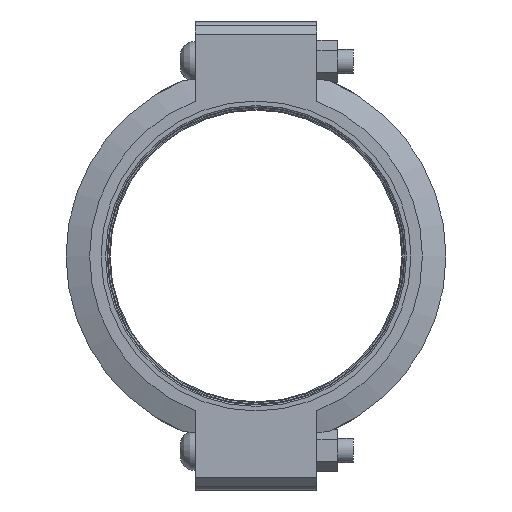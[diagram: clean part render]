
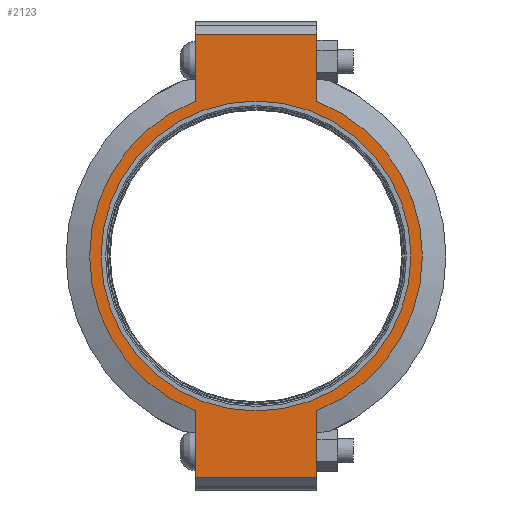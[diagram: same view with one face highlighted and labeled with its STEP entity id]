
A CAD part, left-side view. The second image highlights one B-rep face of the part: STEP entity #2123.
In plain terms, the highlighted planar face has unit normal (-1, 0, 0) as drawn and (0, 0, 1) by its records, which use the part's own axes.
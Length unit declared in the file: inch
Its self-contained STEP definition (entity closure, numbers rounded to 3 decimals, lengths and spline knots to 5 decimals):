
#176=LINE('',#3759,#271);
#187=LINE('',#3810,#282);
#193=LINE('',#3836,#288);
#195=LINE('',#3839,#290);
#196=LINE('',#3844,#291);
#197=LINE('',#3845,#292);
#271=VECTOR('',#3080,0.3937);
#282=VECTOR('',#3111,0.3937);
#288=VECTOR('',#3129,0.3937);
#290=VECTOR('',#3133,0.3937);
#291=VECTOR('',#3138,0.3937);
#292=VECTOR('',#3139,0.3937);
#359=FACE_BOUND('',#632,.T.);
#404=PLANE('',#2495);
#499=FACE_OUTER_BOUND('',#631,.T.);
#631=EDGE_LOOP('',(#1804,#1805,#1806,#1807,#1808,#1809,#1810,#1811));
#632=EDGE_LOOP('',(#1812));
#793=CIRCLE('',#2444,6.375);
#817=CIRCLE('',#2496,6.84375);
#818=CIRCLE('',#2497,6.84375);
#952=VERTEX_POINT('',#3585);
#993=VERTEX_POINT('',#3756);
#994=VERTEX_POINT('',#3758);
#1011=VERTEX_POINT('',#3805);
#1012=VERTEX_POINT('',#3809);
#1019=VERTEX_POINT('',#3831);
#1020=VERTEX_POINT('',#3835);
#1021=VERTEX_POINT('',#3841);
#1022=VERTEX_POINT('',#3843);
#1201=EDGE_CURVE('',#952,#952,#793,.T.);
#1258=EDGE_CURVE('',#994,#993,#176,.T.);
#1279=EDGE_CURVE('',#1012,#1011,#187,.T.);
#1290=EDGE_CURVE('',#1020,#1019,#193,.T.);
#1292=EDGE_CURVE('',#1020,#993,#195,.T.);
#1293=EDGE_CURVE('',#1019,#1021,#817,.T.);
#1294=EDGE_CURVE('',#1021,#1022,#196,.T.);
#1295=EDGE_CURVE('',#1012,#1022,#197,.T.);
#1296=EDGE_CURVE('',#1011,#994,#818,.T.);
#1804=ORIENTED_EDGE('',*,*,#1292,.F.);
#1805=ORIENTED_EDGE('',*,*,#1290,.T.);
#1806=ORIENTED_EDGE('',*,*,#1293,.T.);
#1807=ORIENTED_EDGE('',*,*,#1294,.T.);
#1808=ORIENTED_EDGE('',*,*,#1295,.F.);
#1809=ORIENTED_EDGE('',*,*,#1279,.T.);
#1810=ORIENTED_EDGE('',*,*,#1296,.T.);
#1811=ORIENTED_EDGE('',*,*,#1258,.T.);
#1812=ORIENTED_EDGE('',*,*,#1201,.T.);
#2123=ADVANCED_FACE('',(#499,#359),#404,.T.);
#2444=AXIS2_PLACEMENT_3D('',#3587,#2970,#2971);
#2495=AXIS2_PLACEMENT_3D('',#3840,#3134,#3135);
#2496=AXIS2_PLACEMENT_3D('',#3842,#3136,#3137);
#2497=AXIS2_PLACEMENT_3D('',#3846,#3140,#3141);
#2970=DIRECTION('center_axis',(0.,0.,-1.));
#2971=DIRECTION('ref_axis',(1.,0.,0.));
#3080=DIRECTION('',(1.,0.,0.));
#3111=DIRECTION('',(1.,0.,0.));
#3129=DIRECTION('',(-1.,0.,0.));
#3133=DIRECTION('',(0.,-1.,0.));
#3134=DIRECTION('center_axis',(0.,0.,1.));
#3135=DIRECTION('ref_axis',(-1.,0.,0.));
#3136=DIRECTION('center_axis',(0.,0.,1.));
#3137=DIRECTION('ref_axis',(1.,0.,0.));
#3138=DIRECTION('',(-1.,0.,0.));
#3139=DIRECTION('',(0.,1.,0.));
#3140=DIRECTION('center_axis',(0.,0.,1.));
#3141=DIRECTION('ref_axis',(1.,0.,0.));
#3585=CARTESIAN_POINT('',(-6.375,0.,1.315));
#3587=CARTESIAN_POINT('Origin',(0.,0.,1.315));
#3756=CARTESIAN_POINT('',(9.125,-2.5,1.315));
#3758=CARTESIAN_POINT('',(6.37079,-2.5,1.315));
#3759=CARTESIAN_POINT('',(-9.625,-2.5,1.315));
#3805=CARTESIAN_POINT('',(-6.37079,-2.5,1.315));
#3809=CARTESIAN_POINT('',(-9.125,-2.5,1.315));
#3810=CARTESIAN_POINT('',(-9.625,-2.5,1.315));
#3831=CARTESIAN_POINT('',(6.37079,2.5,1.315));
#3835=CARTESIAN_POINT('',(9.125,2.5,1.315));
#3836=CARTESIAN_POINT('',(9.625,2.5,1.315));
#3839=CARTESIAN_POINT('',(9.125,-1.25,1.315));
#3840=CARTESIAN_POINT('Origin',(0.,0.,
1.315));
#3841=CARTESIAN_POINT('',(-6.37079,2.5,1.315));
#3842=CARTESIAN_POINT('Origin',(0.,0.,1.315));
#3843=CARTESIAN_POINT('',(-9.125,2.5,1.315));
#3844=CARTESIAN_POINT('',(9.625,2.5,1.315));
#3845=CARTESIAN_POINT('',(-9.125,1.25,1.315));
#3846=CARTESIAN_POINT('Origin',(0.,0.,1.315));
